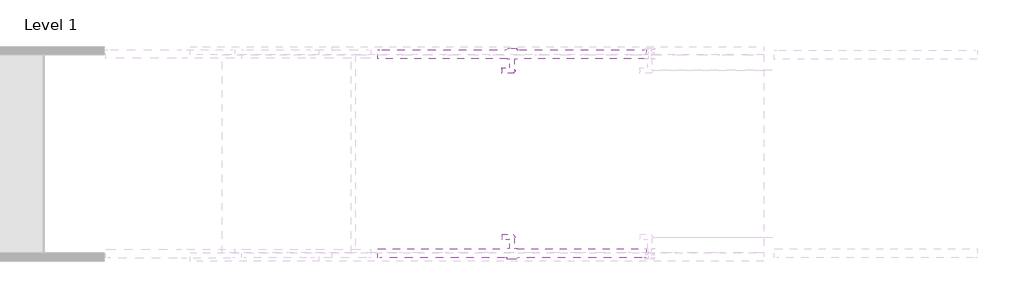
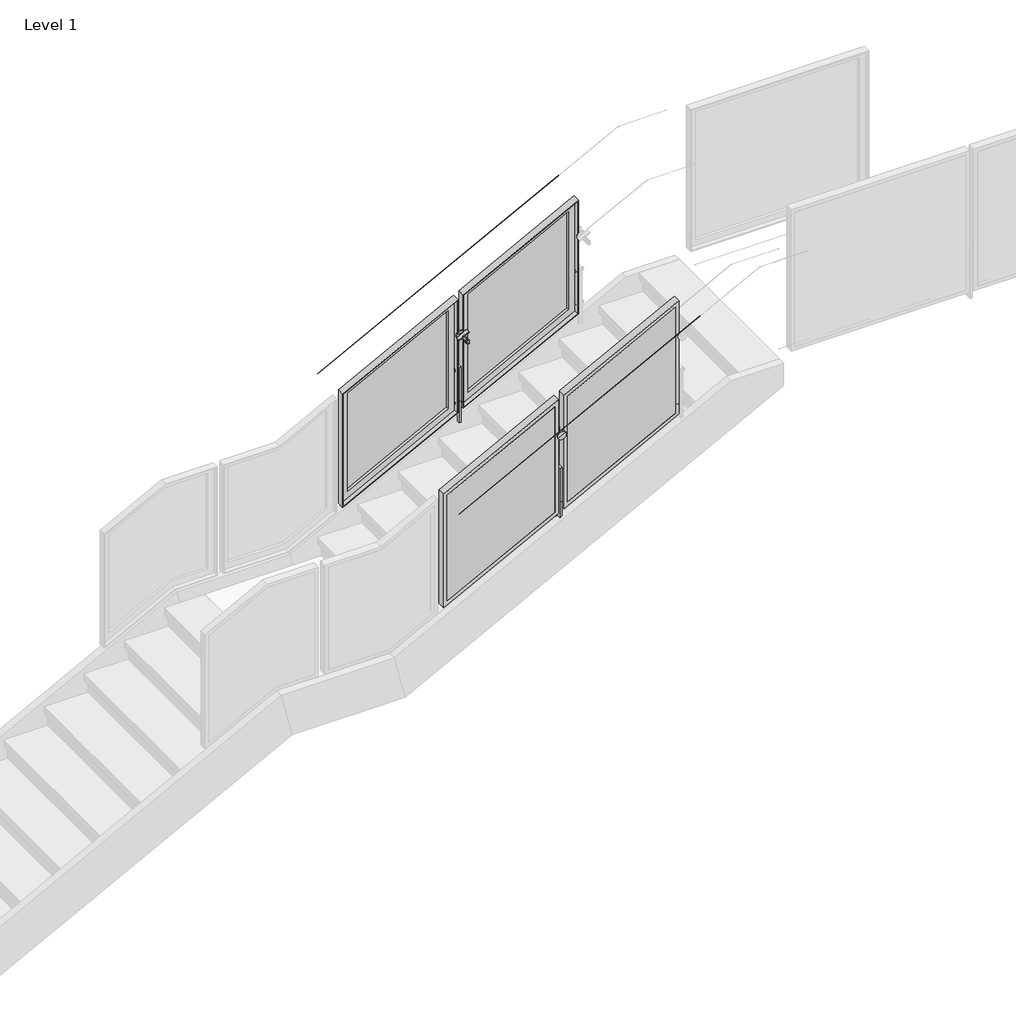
# One storey, part 10 of 37: 2 railings.
"""IFC4 building model written with IfcOpenShell, lengths in millimetres."""

from ifc_helpers import new_model, si_unit, point, frame, frame_2d, origin, place, context, project, spatial, polyline, circle_curve, ellipse_curve, trimmed, segment, composite_curve, outline, extrude, faceted_brep, element, save
from ifc_brep_helpers import plane_surface, cylinder_surface, advanced_brep

model = new_model("IFC4")

# Units and contexts
model_context = context("Model", 3, world=origin())
ifc_project = project(units=[si_unit("LENGTHUNIT", "METRE", prefix="MILLI")], contexts=[model_context])

# Site, building, storey
site = spatial("IfcSite", under=ifc_project)
building = spatial("IfcBuilding", under=site)
storey = spatial("IfcBuildingStorey", under=building, Name="Level 1", Elevation=0.0)

# Railings
placement = place(None, origin())
element("IfcRailing", 1, ObjectType="Metal-Panel-VIVA-FRAME-Slab-Top-Weld-Stairs-Upper", at=placement, inside=storey, context=model_context, shape_type="SolidModel", body=[
    advanced_brep(
    [(-9846.5499453, -31672.7375116, 2887.020393), (-9846.5499453, -31671.7375116, 2887.020393), (-8170.1499453, -31672.7375116, 3757.8775358), (-8170.1499453, -31671.7375116, 3757.8775358)],
    [
        (0, 1, ellipse_curve(frame((-9846.5499453, -31672.2375116, 2887.020393), z_axis=(-1.0, 0.0, 0.0), x_axis=(0.0, 0.0, -0.9999999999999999)), 0.5634403, 0.5)),
        (1, 0, ellipse_curve(frame((-9846.5499453, -31672.2375116, 2887.020393), z_axis=(-1.0, 0.0, 0.0), x_axis=(0.0, 0.0, -0.9999999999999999)), 0.5634403, 0.5)),
        (2, 3, ellipse_curve(frame((-8170.1499453, -31672.2375116, 3757.8775358), z_axis=(1.0, 0.0, 0.0), x_axis=(0.0, 0.0, -0.9999999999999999)), 0.5634403, 0.5)),
        (3, 2, ellipse_curve(frame((-8170.1499453, -31672.2375116, 3757.8775358), z_axis=(1.0, 0.0, 0.0), x_axis=(0.0, 0.0, -0.9999999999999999)), 0.5634403, 0.5)),
        (0, 2),
        (3, 1),
    ],
    [
        plane_surface(frame((-9846.5499453, -31672.2375116, 2887.5838333), z_axis=(-1.0, 0.0, 0.0), x_axis=(0.0, 1.0, 0.0))),
        plane_surface(frame((-8170.1499453, -31672.2375116, 3758.4409762), z_axis=(1.0, 0.0, 0.0), x_axis=(0.0, 1.0, 0.0))),
        cylinder_surface(frame((-9846.3194504, -31672.2375116, 2887.1401306), z_axis=(-0.8874054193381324, 0.0, -0.4609898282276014), x_axis=(0.0, 1.0, 0.0)), 0.5),
    ],
    [
        (0, [[1, 2]]),
        (1, [[3, 4]]),
        (2, [[-1, 5, -4, 6]]),
        (2, [[-2, -6, -3, -5]]),
    ],
),
    extrude(outline(polyline([(3315.0842166, -8963.9039884), (2539.0960104, -8963.9039884), (2928.3469643, -8214.5959023), (3704.3351705, -8214.5959023), (3315.0842166, -8963.9039884)])), frame((0.0, -31454.3861116, 0.0), z_axis=(0.0, 1.0, 0.0), x_axis=(0.0, 0.0, 1.0)), (0.0, 0.0, 1.0), 3.0),
    faceted_brep([(-8989.3039884, -31454.3861116, 3330.5121801), (-8989.3039884, -31454.3861116, 2497.2784366), (-8189.1959023, -31454.3861116, 2912.9190008), (-8189.1959023, -31454.3861116, 3746.1527443), (-8963.9039884, -31454.3861116, 3315.0842166), (-8214.5959023, -31454.3861116, 3704.3351705), (-8214.5959023, -31454.3861116, 2928.3469643), (-8963.9039884, -31454.3861116, 2539.0960104), (-8214.5959023, -31451.3861116, 2928.3469643), (-8963.9039884, -31451.3861116, 2539.0960104), (-8214.5959023, -31451.3861116, 3704.3351705), (-8963.9039884, -31451.3861116, 3315.0842166), (-8983.3095884, -31400.5861116, 2507.147384), (-8983.3095884, -31431.3963116, 2507.147384), (-8195.1903023, -31431.3963116, 2916.5600002), (-8195.1903023, -31400.5861116, 2916.5600002), (-8195.1903023, -31431.3963116, 3736.2837969), (-8195.1903023, -31400.5861116, 3736.2837969), (-8983.3095884, -31400.5861116, 3326.8711807), (-8983.3095884, -31431.3963116, 3326.8711807), (-8189.1959023, -31400.5861116, 2912.9190008), (-8989.3039884, -31400.5861116, 2497.2784366), (-8989.3039884, -31400.5861116, 3330.5121801), (-8189.1959023, -31400.5861116, 3746.1527443), (-8938.5039884, -31451.3861116, 3299.6562532), (-8239.9959023, -31451.3861116, 3662.5175966), (-8239.9959023, -31451.3861116, 2943.7749277), (-8938.5039884, -31451.3861116, 2580.9135842), (-8239.9959023, -31431.3963116, 2943.7749277), (-8239.9959023, -31431.3963116, 3662.5175966), (-8938.5039884, -31431.3963116, 3299.6562532), (-8938.5039884, -31431.3963116, 2580.9135842)], [[[0, 1, 2, 3], [4, 5, 6, 7]], [[7, 6, 8, 9]], [[6, 5, 10, 8]], [[5, 4, 11, 10]], [[4, 7, 9, 11]], [[12, 13, 14, 15]], [[15, 14, 16, 17]], [[13, 12, 18, 19]], [[20, 21, 22, 23], [12, 15, 17, 18]], [[21, 1, 0, 22]], [[21, 20, 2, 1]], [[2, 20, 23, 3]], [[22, 0, 3, 23]], [[11, 9, 8, 10], [24, 25, 26, 27]], [[14, 13, 19, 16], [28, 29, 30, 31]], [[19, 18, 17, 16]], [[25, 24, 30, 29]], [[26, 25, 29, 28]], [[27, 26, 28, 31]], [[24, 27, 31, 30]]]),
    extrude(outline(composite_curve([segment(polyline([(2.99974, 0.0), (0.0, 0.0)]), True, "CONTINUOUS"), segment(trimmed(circle_curve(frame_2d((-19.0451471, 0.0)), 19.0451471), [point((0.0, 0.0))], [point((-23.6280664, 18.4855208))], True, "CARTESIAN"), True, "CONTINUOUS"), segment(polyline([(-23.6280664, 18.4855208), (-24.3499073, 21.3971159)]), True, "CONTINUOUS"), segment(trimmed(circle_curve(frame_2d((-19.0451471, 0.0)), 22.0448871), [point((-24.3499073, 21.3971159))], [point((2.99974, 0.0))], False, "CARTESIAN"), True, "CONTINUOUS")], self_intersect=False)), frame((-9070.8376558, -31342.3593116, 3081.3642016), z_axis=(0.8874054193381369, 0.0, 0.4609898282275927), x_axis=(0.2840545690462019, -0.7876022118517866, -0.5468050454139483)), (0.0, 0.0, 1.0), 79.1184357),
    advanced_brep(
    [(-8995.9527677, -31327.3593116, 3023.0244378), (-8995.9527677, -31334.5030616, 3023.0244378), (-8995.9527677, -31320.2155616, 3023.0244378), (-9031.812014, -31334.5030616, 3092.0534868), (-9031.812014, -31327.3593116, 3092.0534868), (-9031.812014, -31320.2155616, 3092.0534868)],
    [
        (0, 1),
        (1, 2, circle_curve(frame((-8995.9527677, -31327.3593116, 3023.0244378), z_axis=(0.4609898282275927, 0.0, -0.887405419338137), x_axis=(0.0, 1.0, 0.0)), 7.14375)),
        (2, 0),
        (3, 4),
        (4, 5),
        (5, 3, circle_curve(frame((-9031.812014, -31327.3593116, 3092.0534868), z_axis=(-0.4609898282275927, 0.0, 0.887405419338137), x_axis=(0.0, 1.0, 0.0)), 7.14375)),
        (2, 1, circle_curve(frame((-8995.9527677, -31327.3593116, 3023.0244378), z_axis=(0.4609898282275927, 0.0, -0.887405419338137), x_axis=(0.0, 1.0, 0.0)), 7.14375)),
        (3, 5, circle_curve(frame((-9031.812014, -31327.3593116, 3092.0534868), z_axis=(-0.4609898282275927, 0.0, 0.887405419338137), x_axis=(0.0, 1.0, 0.0)), 7.14375)),
        (1, 3),
        (5, 2),
    ],
    [
        plane_surface(frame((-8995.9527677, -31327.3593116, 3023.0244378), z_axis=(0.4609898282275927, 0.0, -0.887405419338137), x_axis=(0.0, 1.0, 0.0))),
        plane_surface(frame((-9031.812014, -31327.3593116, 3092.0534868), z_axis=(-0.4609898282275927, 0.0, 0.887405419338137), x_axis=(0.0, 1.0, 0.0))),
        cylinder_surface(frame((-8878.9985678, -31327.3593116, 2797.887603), z_axis=(0.4609898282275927, 0.0, -0.887405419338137), x_axis=(0.0, 1.0, 0.0)), 7.14375),
    ],
    [
        (0, [[1, 2, 3]]),
        (1, [[4, 5, 6]]),
        (0, [[-3, 7, -1]]),
        (1, [[-5, -4, 8]]),
        (2, [[9, -6, 10, -2]]),
        (2, [[-10, -8, -9, -7]]),
    ],
),
    advanced_brep(
    [(-9035.1163113, -31454.3593116, 3032.984399), (-9013.9849697, -31454.3593116, 3043.9617193), (-9002.7149209, -31454.3593116, 3049.8162901), (-8981.5835794, -31454.3593116, 3060.7936104), (-9035.1163113, -31462.2968116, 3032.984399), (-8981.5835794, -31462.2968116, 3060.7936104), (-9035.1163113, -31395.6218116, 3032.984399), (-9019.6199942, -31395.6218116, 3041.0344339), (-8997.0798965, -31395.6218116, 3052.7435755), (-8981.5835794, -31395.6218116, 3060.7936104), (-9035.1163113, -31403.5593116, 3032.984399), (-8981.5835794, -31403.5593116, 3060.7936104), (-9008.3499453, -31462.2968116, 3046.8890047), (-9019.6199942, -31316.2468116, 3041.0344339), (-9008.3499453, -31316.2468116, 3046.8890047), (-8997.0798965, -31316.2468116, 3052.7435755), (-9013.9849697, -31403.5593116, 3043.9617193), (-9002.7149209, -31403.5593116, 3049.8162901)],
    [
        (0, 1),
        (1, 2, circle_curve(frame((-9008.3499453, -31454.3593116, 3046.8890047), z_axis=(0.0, -1.0, 0.0), x_axis=(0.8874054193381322, 0.0, 0.4609898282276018)), 6.35)),
        (2, 3),
        (3, 0, circle_curve(frame((-9008.3499453, -31454.3593116, 3046.8890047), z_axis=(0.0, 1.0, 0.0), x_axis=(0.8874054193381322, 0.0, 0.4609898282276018)), 30.1625)),
        (4, 0),
        (3, 5),
        (5, 4, circle_curve(frame((-9008.3499453, -31462.2968116, 3046.8890047), z_axis=(0.0, 1.0, 0.0), x_axis=(0.8874054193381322, 0.0, 0.4609898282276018)), 30.1625)),
        (6, 7),
        (7, 8, circle_curve(frame((-9008.3499453, -31395.6218116, 3046.8890047), z_axis=(0.0, -1.0, 0.0), x_axis=(0.8874054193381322, 0.0, 0.4609898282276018)), 12.7)),
        (8, 9),
        (9, 6, circle_curve(frame((-9008.3499453, -31395.6218116, 3046.8890047), z_axis=(0.0, 1.0, 0.0), x_axis=(0.8874054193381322, 0.0, 0.4609898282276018)), 30.1625)),
        (10, 6),
        (9, 11),
        (11, 10, circle_curve(frame((-9008.3499453, -31403.5593116, 3046.8890047), z_axis=(0.0, 1.0, 0.0), x_axis=(0.8874054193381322, 0.0, 0.4609898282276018)), 30.1625)),
        (3, 0, circle_curve(frame((-9008.3499453, -31454.3593116, 3046.8890047), z_axis=(0.0, -1.0, 0.0), x_axis=(0.8874054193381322, 0.0, 0.4609898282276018)), 30.1625)),
        (4, 5, circle_curve(frame((-9008.3499453, -31462.2968116, 3046.8890047), z_axis=(0.0, 1.0, 0.0), x_axis=(0.8874054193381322, 0.0, 0.4609898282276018)), 30.1625)),
        (12, 4),
        (5, 12),
        (13, 14),
        (14, 15),
        (15, 13, circle_curve(frame((-9008.3499453, -31316.2468116, 3046.8890047), z_axis=(0.0, 1.0, 0.0), x_axis=(0.8874054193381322, 0.0, 0.4609898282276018)), 12.7)),
        (13, 15, circle_curve(frame((-9008.3499453, -31316.2468116, 3046.8890047), z_axis=(0.0, 1.0, 0.0), x_axis=(0.8874054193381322, 0.0, 0.4609898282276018)), 12.7)),
        (7, 13),
        (15, 8),
        (7, 8, circle_curve(frame((-9008.3499453, -31395.6218116, 3046.8890047), z_axis=(0.0, 1.0, 0.0), x_axis=(0.8874054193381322, 0.0, 0.4609898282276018)), 12.7)),
        (6, 9, circle_curve(frame((-9008.3499453, -31395.6218116, 3046.8890047), z_axis=(0.0, 1.0, 0.0), x_axis=(0.8874054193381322, 0.0, 0.4609898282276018)), 30.1625)),
        (10, 11, circle_curve(frame((-9008.3499453, -31403.5593116, 3046.8890047), z_axis=(0.0, 1.0, 0.0), x_axis=(0.8874054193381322, 0.0, 0.4609898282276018)), 30.1625)),
        (16, 10),
        (11, 17),
        (17, 16, circle_curve(frame((-9008.3499453, -31403.5593116, 3046.8890047), z_axis=(0.0, 1.0, 0.0), x_axis=(0.8874054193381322, 0.0, 0.4609898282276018)), 6.35)),
        (16, 17, circle_curve(frame((-9008.3499453, -31403.5593116, 3046.8890047), z_axis=(0.0, 1.0, 0.0), x_axis=(0.8874054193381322, 0.0, 0.4609898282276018)), 6.35)),
        (1, 16),
        (17, 2),
        (1, 2, circle_curve(frame((-9008.3499453, -31454.3593116, 3046.8890047), z_axis=(0.0, 1.0, 0.0), x_axis=(0.8874054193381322, 0.0, 0.4609898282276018)), 6.35)),
    ],
    [
        plane_surface(frame((-9008.3499453, -31454.3593116, 3046.8890047), z_axis=(0.0, 1.0, 0.0), x_axis=(0.8874054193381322, 0.0, 0.4609898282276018))),
        cylinder_surface(frame((-9008.3499453, -32927.5593116, 3046.8890047), z_axis=(0.0, -1.0, 0.0), x_axis=(0.8874054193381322, 0.0, 0.4609898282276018)), 30.1625),
        plane_surface(frame((-9008.3499453, -31395.6218116, 3046.8890047), z_axis=(0.0, 1.0, 0.0), x_axis=(0.8874054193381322, 0.0, 0.4609898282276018))),
        plane_surface(frame((-9008.3499453, -31462.2968116, 3046.8890047), z_axis=(0.0, -1.0, 0.0), x_axis=(0.8874054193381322, 0.0, 0.4609898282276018))),
        plane_surface(frame((-9008.3499453, -31316.2468116, 3046.8890047), z_axis=(0.0, 1.0, 0.0), x_axis=(0.8874054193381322, 0.0, 0.4609898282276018))),
        cylinder_surface(frame((-9008.3499453, -32927.5593116, 3046.8890047), z_axis=(0.0, -1.0, 0.0), x_axis=(0.8874054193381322, 0.0, 0.4609898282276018)), 12.7),
        plane_surface(frame((-9008.3499453, -31403.5593116, 3046.8890047), z_axis=(0.0, -1.0, 0.0), x_axis=(0.8874054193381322, 0.0, 0.4609898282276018))),
        cylinder_surface(frame((-9008.3499453, -32927.5593116, 3046.8890047), z_axis=(0.0, -1.0, 0.0), x_axis=(0.8874054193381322, 0.0, 0.4609898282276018)), 6.35),
    ],
    [
        (0, [[1, 2, 3, 4]]),
        (1, [[5, -4, 6, 7]]),
        (2, [[8, 9, 10, 11]]),
        (1, [[12, -11, 13, 14]]),
        (1, [[-6, 15, -5, 16]]),
        (3, [[17, -7, 18]]),
        (3, [[-18, -16, -17]]),
        (4, [[19, 20, 21]]),
        (4, [[-20, -19, 22]]),
        (5, [[23, -21, 24, -9]]),
        (5, [[-24, -22, -23, 25]]),
        (2, [[-10, -25, -8, 26]]),
        (1, [[-13, -26, -12, 27]]),
        (6, [[28, -14, 29, 30]]),
        (6, [[-29, -27, -28, 31]]),
        (7, [[32, -30, 33, -2]]),
        (7, [[-33, -31, -32, 34]]),
        (0, [[-3, -34, -1, -15]]),
    ],
),
    advanced_brep(
    [(-9034.5373453, -31428.9593116, 2526.0620047), (-9034.5373453, -31428.9593116, 2545.1628047), (-9034.5373453, -31428.9593116, 2535.6124047), (-9029.7621453, -31428.9593116, 2526.0620047), (-9029.7621453, -31428.9593116, 2545.1628047), (-9029.7621453, -31428.9593116, 2530.8372047), (-9029.7621453, -31428.9593116, 2540.3876047), (-8986.9377453, -31428.9593116, 2530.8372047), (-8986.9377453, -31428.9593116, 2540.3876047), (-8986.9377453, -31428.9593116, 2526.0620047), (-8986.9377453, -31428.9593116, 2545.1628047), (-8982.1625453, -31428.9593116, 2526.0620047), (-8982.1625453, -31428.9593116, 2545.1628047), (-8982.1625453, -31428.9593116, 2535.6124047)],
    [
        (0, 1, circle_curve(frame((-9034.5373453, -31428.9593116, 2535.6124047), z_axis=(-1.0, 0.0, 0.0), x_axis=(0.0, 0.0, 1.0)), 9.5504)),
        (1, 2),
        (2, 0),
        (1, 0, circle_curve(frame((-9034.5373453, -31428.9593116, 2535.6124047), z_axis=(-1.0, 0.0, 0.0), x_axis=(0.0, 0.0, 1.0)), 9.5504)),
        (3, 4, circle_curve(frame((-9029.7621453, -31428.9593116, 2535.6124047), z_axis=(-1.0, 0.0, 0.0), x_axis=(0.0, 0.0, 1.0)), 9.5504)),
        (4, 1),
        (0, 3),
        (4, 3, circle_curve(frame((-9029.7621453, -31428.9593116, 2535.6124047), z_axis=(-1.0, 0.0, 0.0), x_axis=(0.0, 0.0, 1.0)), 9.5504)),
        (5, 6, circle_curve(frame((-9029.7621453, -31428.9593116, 2535.6124047), z_axis=(-1.0, 0.0, 0.0), x_axis=(0.0, 0.0, 1.0)), 4.7752)),
        (6, 4),
        (3, 5),
        (6, 5, circle_curve(frame((-9029.7621453, -31428.9593116, 2535.6124047), z_axis=(-1.0, 0.0, 0.0), x_axis=(0.0, 0.0, 1.0)), 4.7752)),
        (7, 8, circle_curve(frame((-8986.9377453, -31428.9593116, 2535.6124047), z_axis=(-1.0, 0.0, 0.0), x_axis=(0.0, 0.0, 1.0)), 4.7752)),
        (8, 6),
        (5, 7),
        (8, 7, circle_curve(frame((-8986.9377453, -31428.9593116, 2535.6124047), z_axis=(-1.0, 0.0, 0.0), x_axis=(0.0, 0.0, 1.0)), 4.7752)),
        (9, 10, circle_curve(frame((-8986.9377453, -31428.9593116, 2535.6124047), z_axis=(-1.0, 0.0, 0.0), x_axis=(0.0, 0.0, 1.0)), 9.5504)),
        (10, 8),
        (7, 9),
        (10, 9, circle_curve(frame((-8986.9377453, -31428.9593116, 2535.6124047), z_axis=(-1.0, 0.0, 0.0), x_axis=(0.0, 0.0, 1.0)), 9.5504)),
        (11, 12, circle_curve(frame((-8982.1625453, -31428.9593116, 2535.6124047), z_axis=(-1.0, 0.0, 0.0), x_axis=(0.0, 0.0, 1.0)), 9.5504)),
        (12, 10),
        (9, 11),
        (12, 11, circle_curve(frame((-8982.1625453, -31428.9593116, 2535.6124047), z_axis=(-1.0, 0.0, 0.0), x_axis=(0.0, 0.0, 1.0)), 9.5504)),
        (13, 12),
        (11, 13),
    ],
    [
        plane_surface(frame((-9034.5373453, -31428.9593116, 2535.6124047), z_axis=(-1.0, 0.0, 0.0), x_axis=(0.0, 0.0, 1.0))),
        cylinder_surface(frame((-12426.1177025, -31428.9593116, 2535.6124047), z_axis=(1.0, 0.0, 0.0), x_axis=(0.0, 0.0, 1.0)), 9.5504),
        plane_surface(frame((-9029.7621453, -31428.9593116, 2535.6124047), z_axis=(1.0, 0.0, 0.0), x_axis=(0.0, 0.0, 1.0))),
        cylinder_surface(frame((-12426.1177025, -31428.9593116, 2535.6124047), z_axis=(1.0, 0.0, 0.0), x_axis=(0.0, 0.0, 1.0)), 4.7752),
        plane_surface(frame((-8986.9377453, -31428.9593116, 2535.6124047), z_axis=(-1.0, 0.0, 0.0), x_axis=(0.0, 0.0, 1.0))),
        plane_surface(frame((-8982.1625453, -31428.9593116, 2535.6124047), z_axis=(1.0, 0.0, 0.0), x_axis=(0.0, 0.0, 1.0))),
    ],
    [
        (0, [[1, 2, 3]]),
        (0, [[4, -3, -2]]),
        (1, [[5, 6, -1, 7]]),
        (1, [[8, -7, -4, -6]]),
        (2, [[9, 10, -5, 11]]),
        (2, [[12, -11, -8, -10]]),
        (3, [[13, 14, -9, 15]]),
        (3, [[16, -15, -12, -14]]),
        (4, [[17, 18, -13, 19]]),
        (4, [[20, -19, -16, -18]]),
        (1, [[21, 22, -17, 23]]),
        (1, [[24, -23, -20, -22]]),
        (5, [[25, -21, 26]]),
        (5, [[-26, -24, -25]]),
    ],
),
    advanced_brep(
    [(-9034.5373453, -31428.9593116, 2767.3620047), (-9034.5373453, -31428.9593116, 2786.4628047), (-9034.5373453, -31428.9593116, 2776.9124047), (-9029.7621453, -31428.9593116, 2767.3620047), (-9029.7621453, -31428.9593116, 2786.4628047), (-9029.7621453, -31428.9593116, 2772.1372047), (-9029.7621453, -31428.9593116, 2781.6876047), (-8986.9377453, -31428.9593116, 2772.1372047), (-8986.9377453, -31428.9593116, 2781.6876047), (-8986.9377453, -31428.9593116, 2767.3620047), (-8986.9377453, -31428.9593116, 2786.4628047), (-8982.1625453, -31428.9593116, 2767.3620047), (-8982.1625453, -31428.9593116, 2786.4628047), (-8982.1625453, -31428.9593116, 2776.9124047)],
    [
        (0, 1, circle_curve(frame((-9034.5373453, -31428.9593116, 2776.9124047), z_axis=(-1.0, 0.0, 0.0), x_axis=(0.0, 0.0, 1.0)), 9.5504)),
        (1, 2),
        (2, 0),
        (1, 0, circle_curve(frame((-9034.5373453, -31428.9593116, 2776.9124047), z_axis=(-1.0, 0.0, 0.0), x_axis=(0.0, 0.0, 1.0)), 9.5504)),
        (3, 4, circle_curve(frame((-9029.7621453, -31428.9593116, 2776.9124047), z_axis=(-1.0, 0.0, 0.0), x_axis=(0.0, 0.0, 1.0)), 9.5504)),
        (4, 1),
        (0, 3),
        (4, 3, circle_curve(frame((-9029.7621453, -31428.9593116, 2776.9124047), z_axis=(-1.0, 0.0, 0.0), x_axis=(0.0, 0.0, 1.0)), 9.5504)),
        (5, 6, circle_curve(frame((-9029.7621453, -31428.9593116, 2776.9124047), z_axis=(-1.0, 0.0, 0.0), x_axis=(0.0, 0.0, 1.0)), 4.7752)),
        (6, 4),
        (3, 5),
        (6, 5, circle_curve(frame((-9029.7621453, -31428.9593116, 2776.9124047), z_axis=(-1.0, 0.0, 0.0), x_axis=(0.0, 0.0, 1.0)), 4.7752)),
        (7, 8, circle_curve(frame((-8986.9377453, -31428.9593116, 2776.9124047), z_axis=(-1.0, 0.0, 0.0), x_axis=(0.0, 0.0, 1.0)), 4.7752)),
        (8, 6),
        (5, 7),
        (8, 7, circle_curve(frame((-8986.9377453, -31428.9593116, 2776.9124047), z_axis=(-1.0, 0.0, 0.0), x_axis=(0.0, 0.0, 1.0)), 4.7752)),
        (9, 10, circle_curve(frame((-8986.9377453, -31428.9593116, 2776.9124047), z_axis=(-1.0, 0.0, 0.0), x_axis=(0.0, 0.0, 1.0)), 9.5504)),
        (10, 8),
        (7, 9),
        (10, 9, circle_curve(frame((-8986.9377453, -31428.9593116, 2776.9124047), z_axis=(-1.0, 0.0, 0.0), x_axis=(0.0, 0.0, 1.0)), 9.5504)),
        (11, 12, circle_curve(frame((-8982.1625453, -31428.9593116, 2776.9124047), z_axis=(-1.0, 0.0, 0.0), x_axis=(0.0, 0.0, 1.0)), 9.5504)),
        (12, 10),
        (9, 11),
        (12, 11, circle_curve(frame((-8982.1625453, -31428.9593116, 2776.9124047), z_axis=(-1.0, 0.0, 0.0), x_axis=(0.0, 0.0, 1.0)), 9.5504)),
        (13, 12),
        (11, 13),
    ],
    [
        plane_surface(frame((-9034.5373453, -31428.9593116, 2776.9124047), z_axis=(-1.0, 0.0, 0.0), x_axis=(0.0, 0.0, 1.0))),
        cylinder_surface(frame((-12426.1177025, -31428.9593116, 2776.9124047), z_axis=(1.0, 0.0, 0.0), x_axis=(0.0, 0.0, 1.0)), 9.5504),
        plane_surface(frame((-9029.7621453, -31428.9593116, 2776.9124047), z_axis=(1.0, 0.0, 0.0), x_axis=(0.0, 0.0, 1.0))),
        cylinder_surface(frame((-12426.1177025, -31428.9593116, 2776.9124047), z_axis=(1.0, 0.0, 0.0), x_axis=(0.0, 0.0, 1.0)), 4.7752),
        plane_surface(frame((-8986.9377453, -31428.9593116, 2776.9124047), z_axis=(-1.0, 0.0, 0.0), x_axis=(0.0, 0.0, 1.0))),
        plane_surface(frame((-8982.1625453, -31428.9593116, 2776.9124047), z_axis=(1.0, 0.0, 0.0), x_axis=(0.0, 0.0, 1.0))),
    ],
    [
        (0, [[1, 2, 3]]),
        (0, [[4, -3, -2]]),
        (1, [[5, 6, -1, 7]]),
        (1, [[8, -7, -4, -6]]),
        (2, [[9, 10, -5, 11]]),
        (2, [[12, -11, -8, -10]]),
        (3, [[13, 14, -9, 15]]),
        (3, [[16, -15, -12, -14]]),
        (4, [[17, 18, -13, 19]]),
        (4, [[20, -19, -16, -18]]),
        (1, [[21, 22, -17, 23]]),
        (1, [[24, -23, -20, -22]]),
        (5, [[25, -21, 26]]),
        (5, [[-26, -24, -25]]),
    ],
),
    extrude(outline(polyline([(-9016.289537, -31406.7343116), (-9000.4103537, -31406.7343116), (-9000.4103537, -31451.1843116), (-9016.289537, -31451.1843116), (-9016.289537, -31406.7343116)])), frame((0.0, 0.0, 2395.9124047), z_axis=(0.0, 0.0, 1.0), x_axis=(1.0, 0.0, 0.0)), (0.0, 0.0, 1.0), 406.4),
    extrude(outline(polyline([(2879.6556452, -9802.1039884), (2103.667439, -9802.1039884), (2492.9183928, -9052.7959023), (3268.906599, -9052.7959023), (2879.6556452, -9802.1039884)])), frame((0.0, -31454.3861116, 0.0), z_axis=(0.0, 1.0, 0.0), x_axis=(0.0, 0.0, 1.0)), (0.0, 0.0, 1.0), 3.0),
    faceted_brep([(-9827.5039884, -31454.3861116, 2895.0836086), (-9827.5039884, -31454.3861116, 2061.8498652), (-9027.3959023, -31454.3861116, 2477.4904294), (-9027.3959023, -31454.3861116, 3310.7241729), (-9802.1039884, -31454.3861116, 2879.6556452), (-9052.7959023, -31454.3861116, 3268.906599), (-9052.7959023, -31454.3861116, 2492.9183928), (-9802.1039884, -31454.3861116, 2103.667439), (-9052.7959023, -31451.3861116, 2492.9183928), (-9802.1039884, -31451.3861116, 2103.667439), (-9052.7959023, -31451.3861116, 3268.906599), (-9802.1039884, -31451.3861116, 2879.6556452), (-9821.5095884, -31400.5861116, 2071.7188126), (-9821.5095884, -31431.3963116, 2071.7188126), (-9033.3903023, -31431.3963116, 2481.1314288), (-9033.3903023, -31400.5861116, 2481.1314288), (-9033.3903023, -31431.3963116, 3300.8552254), (-9033.3903023, -31400.5861116, 3300.8552254), (-9821.5095884, -31400.5861116, 2891.4426093), (-9821.5095884, -31431.3963116, 2891.4426093), (-9027.3959023, -31400.5861116, 2477.4904294), (-9827.5039884, -31400.5861116, 2061.8498652), (-9827.5039884, -31400.5861116, 2895.0836086), (-9027.3959023, -31400.5861116, 3310.7241729), (-9776.7039884, -31451.3861116, 2864.2276818), (-9078.1959023, -31451.3861116, 3227.0890252), (-9078.1959023, -31451.3861116, 2508.3463563), (-9776.7039884, -31451.3861116, 2145.4850128), (-9078.1959023, -31431.3963116, 2508.3463563), (-9078.1959023, -31431.3963116, 3227.0890252), (-9776.7039884, -31431.3963116, 2864.2276818), (-9776.7039884, -31431.3963116, 2145.4850128)], [[[0, 1, 2, 3], [4, 5, 6, 7]], [[7, 6, 8, 9]], [[6, 5, 10, 8]], [[5, 4, 11, 10]], [[4, 7, 9, 11]], [[12, 13, 14, 15]], [[15, 14, 16, 17]], [[13, 12, 18, 19]], [[20, 21, 22, 23], [12, 15, 17, 18]], [[21, 1, 0, 22]], [[21, 20, 2, 1]], [[2, 20, 23, 3]], [[22, 0, 3, 23]], [[11, 9, 8, 10], [24, 25, 26, 27]], [[14, 13, 19, 16], [28, 29, 30, 31]], [[19, 18, 17, 16]], [[25, 24, 30, 29]], [[26, 25, 29, 28]], [[27, 26, 28, 31]], [[24, 27, 31, 30]]]),
])
element("IfcRailing", 2, ObjectType="Metal-Panel-VIVA-FRAME-Slab-Top-Weld-Stairs-Upper", at=placement, inside=storey, context=model_context, shape_type="SolidModel", body=[
    advanced_brep(
    [(-9846.5499453, -29968.7492776, 2887.020393), (-9846.5499453, -29967.7492776, 2887.020393), (-8170.1499453, -29968.7492776, 3757.8775358), (-8170.1499453, -29967.7492776, 3757.8775358)],
    [
        (0, 1, ellipse_curve(frame((-9846.5499453, -29968.2492776, 2887.020393), z_axis=(-1.0, 0.0, 0.0), x_axis=(0.0, 0.0, -0.9999999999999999)), 0.5634403, 0.5)),
        (1, 0, ellipse_curve(frame((-9846.5499453, -29968.2492776, 2887.020393), z_axis=(-1.0, 0.0, 0.0), x_axis=(0.0, 0.0, -0.9999999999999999)), 0.5634403, 0.5)),
        (2, 3, ellipse_curve(frame((-8170.1499453, -29968.2492776, 3757.8775358), z_axis=(1.0, 0.0, 0.0), x_axis=(0.0, 0.0, -0.9999999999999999)), 0.5634403, 0.5)),
        (3, 2, ellipse_curve(frame((-8170.1499453, -29968.2492776, 3757.8775358), z_axis=(1.0, 0.0, 0.0), x_axis=(0.0, 0.0, -0.9999999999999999)), 0.5634403, 0.5)),
        (0, 2),
        (3, 1),
    ],
    [
        plane_surface(frame((-9846.5499453, -29968.2492776, 2887.5838333), z_axis=(-1.0, 0.0, 0.0), x_axis=(0.0, 1.0, 0.0))),
        plane_surface(frame((-8170.1499453, -29968.2492776, 3758.4409762), z_axis=(1.0, 0.0, 0.0), x_axis=(0.0, 1.0, 0.0))),
        cylinder_surface(frame((-9846.3194504, -29968.2492776, 2887.1401306), z_axis=(-0.8874054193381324, 0.0, -0.4609898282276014), x_axis=(0.0, 1.0, 0.0)), 0.5),
    ],
    [
        (0, [[1, 2]]),
        (1, [[3, 4]]),
        (2, [[-1, 5, -4, 6]]),
        (2, [[-2, -6, -3, -5]]),
    ],
),
    extrude(outline(polyline([(2539.0960104, -8963.9039884), (2928.3469643, -8214.5959023), (3704.3351705, -8214.5959023), (3315.0842166, -8963.9039884), (2539.0960104, -8963.9039884)])), frame((0.0, -30189.1006776, 0.0), z_axis=(0.0, 1.0, 0.0), x_axis=(0.0, 0.0, 1.0)), (0.0, 0.0, 1.0), 3.0),
    faceted_brep([(-8989.3039884, -30186.1006776, 3330.5121801), (-8189.1959023, -30186.1006776, 3746.1527443), (-8189.1959023, -30186.1006776, 2912.9190008), (-8989.3039884, -30186.1006776, 2497.2784366), (-8963.9039884, -30186.1006776, 3315.0842166), (-8963.9039884, -30186.1006776, 2539.0960104), (-8214.5959023, -30186.1006776, 2928.3469643), (-8214.5959023, -30186.1006776, 3704.3351705), (-8963.9039884, -30189.1006776, 2539.0960104), (-8214.5959023, -30189.1006776, 2928.3469643), (-8214.5959023, -30189.1006776, 3704.3351705), (-8963.9039884, -30189.1006776, 3315.0842166), (-8983.3095884, -30239.9006776, 2507.147384), (-8195.1903023, -30239.9006776, 2916.5600002), (-8195.1903023, -30209.0904776, 2916.5600002), (-8983.3095884, -30209.0904776, 2507.147384), (-8195.1903023, -30239.9006776, 3736.2837969), (-8195.1903023, -30209.0904776, 3736.2837969), (-8983.3095884, -30209.0904776, 3326.8711807), (-8983.3095884, -30239.9006776, 3326.8711807), (-8189.1959023, -30239.9006776, 2912.9190008), (-8189.1959023, -30239.9006776, 3746.1527443), (-8989.3039884, -30239.9006776, 3330.5121801), (-8989.3039884, -30239.9006776, 2497.2784366), (-8938.5039884, -30189.1006776, 3299.6562532), (-8938.5039884, -30189.1006776, 2580.9135842), (-8239.9959023, -30189.1006776, 2943.7749277), (-8239.9959023, -30189.1006776, 3662.5175966), (-8239.9959023, -30209.0904776, 2943.7749277), (-8938.5039884, -30209.0904776, 2580.9135842), (-8938.5039884, -30209.0904776, 3299.6562532), (-8239.9959023, -30209.0904776, 3662.5175966)], [[[0, 1, 2, 3], [4, 5, 6, 7]], [[5, 8, 9, 6]], [[6, 9, 10, 7]], [[7, 10, 11, 4]], [[4, 11, 8, 5]], [[12, 13, 14, 15]], [[13, 16, 17, 14]], [[15, 18, 19, 12]], [[20, 21, 22, 23], [12, 19, 16, 13]], [[23, 22, 0, 3]], [[23, 3, 2, 20]], [[2, 1, 21, 20]], [[22, 21, 1, 0]], [[11, 10, 9, 8], [24, 25, 26, 27]], [[14, 17, 18, 15], [28, 29, 30, 31]], [[18, 17, 16, 19]], [[27, 31, 30, 24]], [[26, 28, 31, 27]], [[25, 29, 28, 26]], [[24, 30, 29, 25]]]),
    extrude(outline(composite_curve([segment(trimmed(circle_curve(frame_2d((-19.0451471, 0.0)), 22.0448871), [point((2.99974, 0.0))], [point((-24.3499073, -21.3971159))], False, "CARTESIAN"), True, "CONTINUOUS"), segment(polyline([(-24.3499073, -21.3971159), (-23.6280664, -18.4855208)]), True, "CONTINUOUS"), segment(trimmed(circle_curve(frame_2d((-19.0451471, 0.0)), 19.0451471), [point((-23.6280664, -18.4855208))], [point((0.0, 0.0))], True, "CARTESIAN"), True, "CONTINUOUS"), segment(polyline([(0.0, 0.0), (2.99974, 0.0)]), True, "CONTINUOUS")], self_intersect=False)), frame((-9070.8376558, -30298.1274776, 3081.3642016), z_axis=(0.8874054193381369, 0.0, 0.4609898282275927), x_axis=(0.2840545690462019, 0.7876022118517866, -0.5468050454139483)), (0.0, 0.0, 1.0), 79.1184357),
    advanced_brep(
    [(-8995.9527677, -30313.1274776, 3023.0244378), (-8995.9527677, -30320.2712276, 3023.0244378), (-8995.9527677, -30305.9837276, 3023.0244378), (-9031.812014, -30305.9837276, 3092.0534868), (-9031.812014, -30320.2712276, 3092.0534868), (-9031.812014, -30313.1274776, 3092.0534868)],
    [
        (0, 1),
        (1, 2, circle_curve(frame((-8995.9527677, -30313.1274776, 3023.0244378), z_axis=(0.4609898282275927, 0.0, -0.887405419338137), x_axis=(0.0, -1.0, 0.0)), 7.14375)),
        (2, 0),
        (3, 4, circle_curve(frame((-9031.812014, -30313.1274776, 3092.0534868), z_axis=(-0.4609898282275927, 0.0, 0.887405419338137), x_axis=(0.0, -1.0, 0.0)), 7.14375)),
        (4, 5),
        (5, 3),
        (2, 1, circle_curve(frame((-8995.9527677, -30313.1274776, 3023.0244378), z_axis=(0.4609898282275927, 0.0, -0.887405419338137), x_axis=(0.0, -1.0, 0.0)), 7.14375)),
        (4, 3, circle_curve(frame((-9031.812014, -30313.1274776, 3092.0534868), z_axis=(-0.4609898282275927, 0.0, 0.887405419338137), x_axis=(0.0, -1.0, 0.0)), 7.14375)),
        (1, 4),
        (3, 2),
    ],
    [
        plane_surface(frame((-8995.9527677, -30313.1274776, 3023.0244378), z_axis=(0.4609898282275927, 0.0, -0.887405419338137), x_axis=(0.0, -1.0, 0.0))),
        plane_surface(frame((-9031.812014, -30313.1274776, 3092.0534868), z_axis=(-0.4609898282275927, 0.0, 0.887405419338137), x_axis=(0.0, -1.0, 0.0))),
        cylinder_surface(frame((-8878.9985678, -30313.1274776, 2797.887603), z_axis=(0.4609898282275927, 0.0, -0.887405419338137), x_axis=(0.0, -1.0, 0.0)), 7.14375),
    ],
    [
        (0, [[1, 2, 3]]),
        (1, [[4, 5, 6]]),
        (0, [[-3, 7, -1]]),
        (1, [[8, -6, -5]]),
        (2, [[-2, 9, -4, 10]]),
        (2, [[-7, -10, -8, -9]]),
    ],
),
    advanced_brep(
    [(-9035.1163113, -30186.1274776, 3032.984399), (-8981.5835794, -30186.1274776, 3060.7936104), (-9002.7149209, -30186.1274776, 3049.8162901), (-9013.9849697, -30186.1274776, 3043.9617193), (-9035.1163113, -30178.1899776, 3032.984399), (-8981.5835794, -30178.1899776, 3060.7936104), (-9035.1163113, -30244.8649776, 3032.984399), (-8981.5835794, -30244.8649776, 3060.7936104), (-8997.0798965, -30244.8649776, 3052.7435755), (-9019.6199942, -30244.8649776, 3041.0344339), (-9035.1163113, -30236.9274776, 3032.984399), (-8981.5835794, -30236.9274776, 3060.7936104), (-9008.3499453, -30178.1899776, 3046.8890047), (-9019.6199942, -30324.2399776, 3041.0344339), (-8997.0798965, -30324.2399776, 3052.7435755), (-9008.3499453, -30324.2399776, 3046.8890047), (-9013.9849697, -30236.9274776, 3043.9617193), (-9002.7149209, -30236.9274776, 3049.8162901)],
    [
        (0, 1, circle_curve(frame((-9008.3499453, -30186.1274776, 3046.8890047), z_axis=(0.0, -1.0, 0.0), x_axis=(0.8874054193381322, 0.0, 0.4609898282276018)), 30.1625)),
        (1, 2),
        (2, 3, circle_curve(frame((-9008.3499453, -30186.1274776, 3046.8890047), z_axis=(0.0, 1.0, 0.0), x_axis=(0.8874054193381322, 0.0, 0.4609898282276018)), 6.35)),
        (3, 0),
        (4, 5, circle_curve(frame((-9008.3499453, -30178.1899776, 3046.8890047), z_axis=(0.0, -1.0, 0.0), x_axis=(0.8874054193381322, 0.0, 0.4609898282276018)), 30.1625)),
        (5, 1),
        (0, 4),
        (6, 7, circle_curve(frame((-9008.3499453, -30244.8649776, 3046.8890047), z_axis=(0.0, -1.0, 0.0), x_axis=(0.8874054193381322, 0.0, 0.4609898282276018)), 30.1625)),
        (7, 8),
        (8, 9, circle_curve(frame((-9008.3499453, -30244.8649776, 3046.8890047), z_axis=(0.0, 1.0, 0.0), x_axis=(0.8874054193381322, 0.0, 0.4609898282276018)), 12.7)),
        (9, 6),
        (10, 11, circle_curve(frame((-9008.3499453, -30236.9274776, 3046.8890047), z_axis=(0.0, -1.0, 0.0), x_axis=(0.8874054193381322, 0.0, 0.4609898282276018)), 30.1625)),
        (11, 7),
        (6, 10),
        (5, 4, circle_curve(frame((-9008.3499453, -30178.1899776, 3046.8890047), z_axis=(0.0, -1.0, 0.0), x_axis=(0.8874054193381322, 0.0, 0.4609898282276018)), 30.1625)),
        (0, 1, circle_curve(frame((-9008.3499453, -30186.1274776, 3046.8890047), z_axis=(0.0, 1.0, 0.0), x_axis=(0.8874054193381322, 0.0, 0.4609898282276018)), 30.1625)),
        (12, 5),
        (4, 12),
        (13, 14, circle_curve(frame((-9008.3499453, -30324.2399776, 3046.8890047), z_axis=(0.0, -1.0, 0.0), x_axis=(0.8874054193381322, 0.0, 0.4609898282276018)), 12.7)),
        (14, 15),
        (15, 13),
        (14, 13, circle_curve(frame((-9008.3499453, -30324.2399776, 3046.8890047), z_axis=(0.0, -1.0, 0.0), x_axis=(0.8874054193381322, 0.0, 0.4609898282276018)), 12.7)),
        (8, 14),
        (13, 9),
        (8, 9, circle_curve(frame((-9008.3499453, -30244.8649776, 3046.8890047), z_axis=(0.0, -1.0, 0.0), x_axis=(0.8874054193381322, 0.0, 0.4609898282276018)), 12.7)),
        (7, 6, circle_curve(frame((-9008.3499453, -30244.8649776, 3046.8890047), z_axis=(0.0, -1.0, 0.0), x_axis=(0.8874054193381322, 0.0, 0.4609898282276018)), 30.1625)),
        (11, 10, circle_curve(frame((-9008.3499453, -30236.9274776, 3046.8890047), z_axis=(0.0, -1.0, 0.0), x_axis=(0.8874054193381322, 0.0, 0.4609898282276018)), 30.1625)),
        (16, 17, circle_curve(frame((-9008.3499453, -30236.9274776, 3046.8890047), z_axis=(0.0, -1.0, 0.0), x_axis=(0.8874054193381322, 0.0, 0.4609898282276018)), 6.35)),
        (17, 11),
        (10, 16),
        (17, 16, circle_curve(frame((-9008.3499453, -30236.9274776, 3046.8890047), z_axis=(0.0, -1.0, 0.0), x_axis=(0.8874054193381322, 0.0, 0.4609898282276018)), 6.35)),
        (2, 17),
        (16, 3),
        (2, 3, circle_curve(frame((-9008.3499453, -30186.1274776, 3046.8890047), z_axis=(0.0, -1.0, 0.0), x_axis=(0.8874054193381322, 0.0, 0.4609898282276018)), 6.35)),
    ],
    [
        plane_surface(frame((-9008.3499453, -30186.1274776, 3046.8890047), z_axis=(0.0, -1.0, 0.0), x_axis=(0.8874054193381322, 0.0, 0.4609898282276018))),
        cylinder_surface(frame((-9008.3499453, -28712.9274776, 3046.8890047), z_axis=(0.0, 1.0, 0.0), x_axis=(0.8874054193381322, 0.0, 0.4609898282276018)), 30.1625),
        plane_surface(frame((-9008.3499453, -30244.8649776, 3046.8890047), z_axis=(0.0, -1.0, 0.0), x_axis=(0.8874054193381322, 0.0, 0.4609898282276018))),
        plane_surface(frame((-9008.3499453, -30178.1899776, 3046.8890047), z_axis=(0.0, 1.0, 0.0), x_axis=(0.8874054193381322, 0.0, 0.4609898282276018))),
        plane_surface(frame((-9008.3499453, -30324.2399776, 3046.8890047), z_axis=(0.0, -1.0, 0.0), x_axis=(0.8874054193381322, 0.0, 0.4609898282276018))),
        cylinder_surface(frame((-9008.3499453, -28712.9274776, 3046.8890047), z_axis=(0.0, 1.0, 0.0), x_axis=(0.8874054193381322, 0.0, 0.4609898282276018)), 12.7),
        plane_surface(frame((-9008.3499453, -30236.9274776, 3046.8890047), z_axis=(0.0, 1.0, 0.0), x_axis=(0.8874054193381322, 0.0, 0.4609898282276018))),
        cylinder_surface(frame((-9008.3499453, -28712.9274776, 3046.8890047), z_axis=(0.0, 1.0, 0.0), x_axis=(0.8874054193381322, 0.0, 0.4609898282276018)), 6.35),
    ],
    [
        (0, [[1, 2, 3, 4]]),
        (1, [[5, 6, -1, 7]]),
        (2, [[8, 9, 10, 11]]),
        (1, [[12, 13, -8, 14]]),
        (1, [[15, -7, 16, -6]]),
        (3, [[17, -5, 18]]),
        (3, [[-18, -15, -17]]),
        (4, [[19, 20, 21]]),
        (4, [[22, -21, -20]]),
        (5, [[-10, 23, -19, 24]]),
        (5, [[25, -24, -22, -23]]),
        (2, [[26, -11, -25, -9]]),
        (1, [[27, -14, -26, -13]]),
        (6, [[28, 29, -12, 30]]),
        (6, [[31, -30, -27, -29]]),
        (7, [[-3, 32, -28, 33]]),
        (7, [[34, -33, -31, -32]]),
        (0, [[-16, -4, -34, -2]]),
    ],
),
    advanced_brep(
    [(-9034.5373453, -30211.5274776, 2526.0620047), (-9034.5373453, -30211.5274776, 2535.6124047), (-9034.5373453, -30211.5274776, 2545.1628047), (-9029.7621453, -30211.5274776, 2526.0620047), (-9029.7621453, -30211.5274776, 2545.1628047), (-9029.7621453, -30211.5274776, 2530.8372047), (-9029.7621453, -30211.5274776, 2540.3876047), (-8986.9377453, -30211.5274776, 2530.8372047), (-8986.9377453, -30211.5274776, 2540.3876047), (-8986.9377453, -30211.5274776, 2526.0620047), (-8986.9377453, -30211.5274776, 2545.1628047), (-8982.1625453, -30211.5274776, 2526.0620047), (-8982.1625453, -30211.5274776, 2545.1628047), (-8982.1625453, -30211.5274776, 2535.6124047)],
    [
        (0, 1),
        (1, 2),
        (2, 0, circle_curve(frame((-9034.5373453, -30211.5274776, 2535.6124047), z_axis=(-1.0, 0.0, 0.0), x_axis=(0.0, 0.0, 1.0)), 9.5504)),
        (0, 2, circle_curve(frame((-9034.5373453, -30211.5274776, 2535.6124047), z_axis=(-1.0, 0.0, 0.0), x_axis=(0.0, 0.0, 1.0)), 9.5504)),
        (3, 0),
        (2, 4),
        (4, 3, circle_curve(frame((-9029.7621453, -30211.5274776, 2535.6124047), z_axis=(-1.0, 0.0, 0.0), x_axis=(0.0, 0.0, 1.0)), 9.5504)),
        (3, 4, circle_curve(frame((-9029.7621453, -30211.5274776, 2535.6124047), z_axis=(-1.0, 0.0, 0.0), x_axis=(0.0, 0.0, 1.0)), 9.5504)),
        (5, 3),
        (4, 6),
        (6, 5, circle_curve(frame((-9029.7621453, -30211.5274776, 2535.6124047), z_axis=(-1.0, 0.0, 0.0), x_axis=(0.0, 0.0, 1.0)), 4.7752)),
        (5, 6, circle_curve(frame((-9029.7621453, -30211.5274776, 2535.6124047), z_axis=(-1.0, 0.0, 0.0), x_axis=(0.0, 0.0, 1.0)), 4.7752)),
        (7, 5),
        (6, 8),
        (8, 7, circle_curve(frame((-8986.9377453, -30211.5274776, 2535.6124047), z_axis=(-1.0, 0.0, 0.0), x_axis=(0.0, 0.0, 1.0)), 4.7752)),
        (7, 8, circle_curve(frame((-8986.9377453, -30211.5274776, 2535.6124047), z_axis=(-1.0, 0.0, 0.0), x_axis=(0.0, 0.0, 1.0)), 4.7752)),
        (9, 7),
        (8, 10),
        (10, 9, circle_curve(frame((-8986.9377453, -30211.5274776, 2535.6124047), z_axis=(-1.0, 0.0, 0.0), x_axis=(0.0, 0.0, 1.0)), 9.5504)),
        (9, 10, circle_curve(frame((-8986.9377453, -30211.5274776, 2535.6124047), z_axis=(-1.0, 0.0, 0.0), x_axis=(0.0, 0.0, 1.0)), 9.5504)),
        (11, 9),
        (10, 12),
        (12, 11, circle_curve(frame((-8982.1625453, -30211.5274776, 2535.6124047), z_axis=(-1.0, 0.0, 0.0), x_axis=(0.0, 0.0, 1.0)), 9.5504)),
        (11, 12, circle_curve(frame((-8982.1625453, -30211.5274776, 2535.6124047), z_axis=(-1.0, 0.0, 0.0), x_axis=(0.0, 0.0, 1.0)), 9.5504)),
        (13, 11),
        (12, 13),
    ],
    [
        plane_surface(frame((-9034.5373453, -30211.5274776, 2535.6124047), z_axis=(-1.0, 0.0, 0.0), x_axis=(0.0, 0.0, 1.0))),
        cylinder_surface(frame((-12426.1177025, -30211.5274776, 2535.6124047), z_axis=(1.0, 0.0, 0.0), x_axis=(0.0, 0.0, 1.0)), 9.5504),
        plane_surface(frame((-9029.7621453, -30211.5274776, 2535.6124047), z_axis=(1.0, 0.0, 0.0), x_axis=(0.0, 0.0, 1.0))),
        cylinder_surface(frame((-12426.1177025, -30211.5274776, 2535.6124047), z_axis=(1.0, 0.0, 0.0), x_axis=(0.0, 0.0, 1.0)), 4.7752),
        plane_surface(frame((-8986.9377453, -30211.5274776, 2535.6124047), z_axis=(-1.0, 0.0, 0.0), x_axis=(0.0, 0.0, 1.0))),
        plane_surface(frame((-8982.1625453, -30211.5274776, 2535.6124047), z_axis=(1.0, 0.0, 0.0), x_axis=(0.0, 0.0, 1.0))),
    ],
    [
        (0, [[1, 2, 3]]),
        (0, [[-2, -1, 4]]),
        (1, [[5, -3, 6, 7]]),
        (1, [[-6, -4, -5, 8]]),
        (2, [[9, -7, 10, 11]]),
        (2, [[-10, -8, -9, 12]]),
        (3, [[13, -11, 14, 15]]),
        (3, [[-14, -12, -13, 16]]),
        (4, [[17, -15, 18, 19]]),
        (4, [[-18, -16, -17, 20]]),
        (1, [[21, -19, 22, 23]]),
        (1, [[-22, -20, -21, 24]]),
        (5, [[25, -23, 26]]),
        (5, [[-26, -24, -25]]),
    ],
),
    advanced_brep(
    [(-9034.5373453, -30211.5274776, 2767.3620047), (-9034.5373453, -30211.5274776, 2776.9124047), (-9034.5373453, -30211.5274776, 2786.4628047), (-9029.7621453, -30211.5274776, 2767.3620047), (-9029.7621453, -30211.5274776, 2786.4628047), (-9029.7621453, -30211.5274776, 2772.1372047), (-9029.7621453, -30211.5274776, 2781.6876047), (-8986.9377453, -30211.5274776, 2772.1372047), (-8986.9377453, -30211.5274776, 2781.6876047), (-8986.9377453, -30211.5274776, 2767.3620047), (-8986.9377453, -30211.5274776, 2786.4628047), (-8982.1625453, -30211.5274776, 2767.3620047), (-8982.1625453, -30211.5274776, 2786.4628047), (-8982.1625453, -30211.5274776, 2776.9124047)],
    [
        (0, 1),
        (1, 2),
        (2, 0, circle_curve(frame((-9034.5373453, -30211.5274776, 2776.9124047), z_axis=(-1.0, 0.0, 0.0), x_axis=(0.0, 0.0, 1.0)), 9.5504)),
        (0, 2, circle_curve(frame((-9034.5373453, -30211.5274776, 2776.9124047), z_axis=(-1.0, 0.0, 0.0), x_axis=(0.0, 0.0, 1.0)), 9.5504)),
        (3, 0),
        (2, 4),
        (4, 3, circle_curve(frame((-9029.7621453, -30211.5274776, 2776.9124047), z_axis=(-1.0, 0.0, 0.0), x_axis=(0.0, 0.0, 1.0)), 9.5504)),
        (3, 4, circle_curve(frame((-9029.7621453, -30211.5274776, 2776.9124047), z_axis=(-1.0, 0.0, 0.0), x_axis=(0.0, 0.0, 1.0)), 9.5504)),
        (5, 3),
        (4, 6),
        (6, 5, circle_curve(frame((-9029.7621453, -30211.5274776, 2776.9124047), z_axis=(-1.0, 0.0, 0.0), x_axis=(0.0, 0.0, 1.0)), 4.7752)),
        (5, 6, circle_curve(frame((-9029.7621453, -30211.5274776, 2776.9124047), z_axis=(-1.0, 0.0, 0.0), x_axis=(0.0, 0.0, 1.0)), 4.7752)),
        (7, 5),
        (6, 8),
        (8, 7, circle_curve(frame((-8986.9377453, -30211.5274776, 2776.9124047), z_axis=(-1.0, 0.0, 0.0), x_axis=(0.0, 0.0, 1.0)), 4.7752)),
        (7, 8, circle_curve(frame((-8986.9377453, -30211.5274776, 2776.9124047), z_axis=(-1.0, 0.0, 0.0), x_axis=(0.0, 0.0, 1.0)), 4.7752)),
        (9, 7),
        (8, 10),
        (10, 9, circle_curve(frame((-8986.9377453, -30211.5274776, 2776.9124047), z_axis=(-1.0, 0.0, 0.0), x_axis=(0.0, 0.0, 1.0)), 9.5504)),
        (9, 10, circle_curve(frame((-8986.9377453, -30211.5274776, 2776.9124047), z_axis=(-1.0, 0.0, 0.0), x_axis=(0.0, 0.0, 1.0)), 9.5504)),
        (11, 9),
        (10, 12),
        (12, 11, circle_curve(frame((-8982.1625453, -30211.5274776, 2776.9124047), z_axis=(-1.0, 0.0, 0.0), x_axis=(0.0, 0.0, 1.0)), 9.5504)),
        (11, 12, circle_curve(frame((-8982.1625453, -30211.5274776, 2776.9124047), z_axis=(-1.0, 0.0, 0.0), x_axis=(0.0, 0.0, 1.0)), 9.5504)),
        (13, 11),
        (12, 13),
    ],
    [
        plane_surface(frame((-9034.5373453, -30211.5274776, 2776.9124047), z_axis=(-1.0, 0.0, 0.0), x_axis=(0.0, 0.0, 1.0))),
        cylinder_surface(frame((-12426.1177025, -30211.5274776, 2776.9124047), z_axis=(1.0, 0.0, 0.0), x_axis=(0.0, 0.0, 1.0)), 9.5504),
        plane_surface(frame((-9029.7621453, -30211.5274776, 2776.9124047), z_axis=(1.0, 0.0, 0.0), x_axis=(0.0, 0.0, 1.0))),
        cylinder_surface(frame((-12426.1177025, -30211.5274776, 2776.9124047), z_axis=(1.0, 0.0, 0.0), x_axis=(0.0, 0.0, 1.0)), 4.7752),
        plane_surface(frame((-8986.9377453, -30211.5274776, 2776.9124047), z_axis=(-1.0, 0.0, 0.0), x_axis=(0.0, 0.0, 1.0))),
        plane_surface(frame((-8982.1625453, -30211.5274776, 2776.9124047), z_axis=(1.0, 0.0, 0.0), x_axis=(0.0, 0.0, 1.0))),
    ],
    [
        (0, [[1, 2, 3]]),
        (0, [[-2, -1, 4]]),
        (1, [[5, -3, 6, 7]]),
        (1, [[-6, -4, -5, 8]]),
        (2, [[9, -7, 10, 11]]),
        (2, [[-10, -8, -9, 12]]),
        (3, [[13, -11, 14, 15]]),
        (3, [[-14, -12, -13, 16]]),
        (4, [[17, -15, 18, 19]]),
        (4, [[-18, -16, -17, 20]]),
        (1, [[21, -19, 22, 23]]),
        (1, [[-22, -20, -21, 24]]),
        (5, [[25, -23, 26]]),
        (5, [[-26, -24, -25]]),
    ],
),
    extrude(outline(polyline([(-9016.289537, -30233.7524776), (-9016.289537, -30189.3024776), (-9000.4103537, -30189.3024776), (-9000.4103537, -30233.7524776), (-9016.289537, -30233.7524776)])), frame((0.0, 0.0, 2395.9124047), z_axis=(0.0, 0.0, 1.0), x_axis=(1.0, 0.0, 0.0)), (0.0, 0.0, 1.0), 406.4),
    extrude(outline(polyline([(2103.667439, -9802.1039884), (2492.9183928, -9052.7959023), (3268.906599, -9052.7959023), (2879.6556452, -9802.1039884), (2103.667439, -9802.1039884)])), frame((0.0, -30189.1006776, 0.0), z_axis=(0.0, 1.0, 0.0), x_axis=(0.0, 0.0, 1.0)), (0.0, 0.0, 1.0), 3.0),
    faceted_brep([(-9827.5039884, -30186.1006776, 2895.0836086), (-9027.3959023, -30186.1006776, 3310.7241729), (-9027.3959023, -30186.1006776, 2477.4904294), (-9827.5039884, -30186.1006776, 2061.8498652), (-9802.1039884, -30186.1006776, 2879.6556452), (-9802.1039884, -30186.1006776, 2103.667439), (-9052.7959023, -30186.1006776, 2492.9183928), (-9052.7959023, -30186.1006776, 3268.906599), (-9802.1039884, -30189.1006776, 2103.667439), (-9052.7959023, -30189.1006776, 2492.9183928), (-9052.7959023, -30189.1006776, 3268.906599), (-9802.1039884, -30189.1006776, 2879.6556452), (-9821.5095884, -30239.9006776, 2071.7188126), (-9033.3903023, -30239.9006776, 2481.1314288), (-9033.3903023, -30209.0904776, 2481.1314288), (-9821.5095884, -30209.0904776, 2071.7188126), (-9033.3903023, -30239.9006776, 3300.8552254), (-9033.3903023, -30209.0904776, 3300.8552254), (-9821.5095884, -30209.0904776, 2891.4426093), (-9821.5095884, -30239.9006776, 2891.4426093), (-9027.3959023, -30239.9006776, 2477.4904294), (-9027.3959023, -30239.9006776, 3310.7241729), (-9827.5039884, -30239.9006776, 2895.0836086), (-9827.5039884, -30239.9006776, 2061.8498652), (-9776.7039884, -30189.1006776, 2864.2276818), (-9776.7039884, -30189.1006776, 2145.4850128), (-9078.1959023, -30189.1006776, 2508.3463563), (-9078.1959023, -30189.1006776, 3227.0890252), (-9078.1959023, -30209.0904776, 2508.3463563), (-9776.7039884, -30209.0904776, 2145.4850128), (-9776.7039884, -30209.0904776, 2864.2276818), (-9078.1959023, -30209.0904776, 3227.0890252)], [[[0, 1, 2, 3], [4, 5, 6, 7]], [[5, 8, 9, 6]], [[6, 9, 10, 7]], [[7, 10, 11, 4]], [[4, 11, 8, 5]], [[12, 13, 14, 15]], [[13, 16, 17, 14]], [[15, 18, 19, 12]], [[20, 21, 22, 23], [12, 19, 16, 13]], [[23, 22, 0, 3]], [[23, 3, 2, 20]], [[2, 1, 21, 20]], [[22, 21, 1, 0]], [[11, 10, 9, 8], [24, 25, 26, 27]], [[14, 17, 18, 15], [28, 29, 30, 31]], [[18, 17, 16, 19]], [[27, 31, 30, 24]], [[26, 28, 31, 27]], [[25, 29, 28, 26]], [[24, 30, 29, 25]]]),
])

save(model, "model.ifc")
